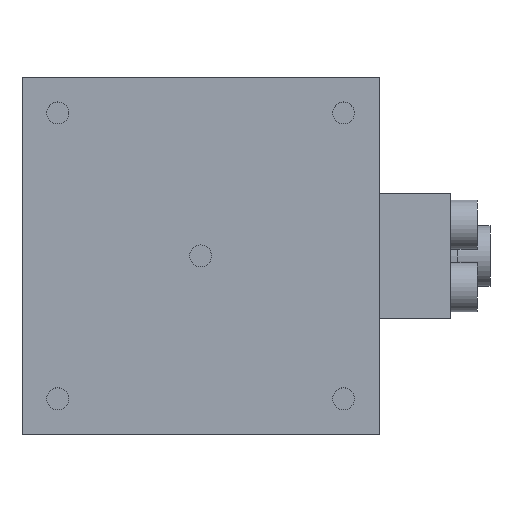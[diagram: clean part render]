
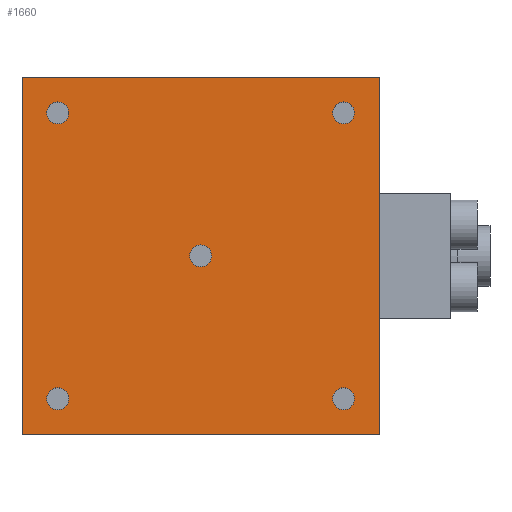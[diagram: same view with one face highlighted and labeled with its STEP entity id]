
A CAD part, top view. The second image highlights one B-rep face of the part: STEP entity #1660.
In plain terms, the highlighted planar face has unit normal (0, 0, 1).
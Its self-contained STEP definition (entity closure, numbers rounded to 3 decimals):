
#1493=CARTESIAN_POINT('Axis2P3D Location',(0.,0.,8.)) ;
#1497=CARTESIAN_POINT('Vertex',(1.23,0.,8.)) ;
#1499=CARTESIAN_POINT('Vertex',(-1.23,0.,8.)) ;
#1528=CARTESIAN_POINT('Axis2P3D Location',(0.,0.,8.)) ;
#1545=CARTESIAN_POINT('Axis2P3D Location',(0.,-20.,8.)) ;
#1550=CARTESIAN_POINT('Line Origine',(0.,20.,8.)) ;
#1554=CARTESIAN_POINT('Vertex',(-20.,20.,8.)) ;
#1556=CARTESIAN_POINT('Vertex',(20.,20.,8.)) ;
#1559=CARTESIAN_POINT('Line Origine',(-20.,0.,8.)) ;
#1563=CARTESIAN_POINT('Vertex',(-20.,-20.,8.)) ;
#1566=CARTESIAN_POINT('Line Origine',(0.,-20.,8.)) ;
#1570=CARTESIAN_POINT('Vertex',(20.,-20.,8.)) ;
#1573=CARTESIAN_POINT('Line Origine',(20.,0.,8.)) ;
#1588=CARTESIAN_POINT('Axis2P3D Location',(-16.,16.,8.)) ;
#1592=CARTESIAN_POINT('Vertex',(-17.23,16.,8.)) ;
#1594=CARTESIAN_POINT('Vertex',(-14.771,16.,8.)) ;
#1597=CARTESIAN_POINT('Axis2P3D Location',(-16.,16.,8.)) ;
#1606=CARTESIAN_POINT('Axis2P3D Location',(16.,16.,8.)) ;
#1610=CARTESIAN_POINT('Vertex',(14.771,16.,8.)) ;
#1612=CARTESIAN_POINT('Vertex',(17.23,16.,8.)) ;
#1615=CARTESIAN_POINT('Axis2P3D Location',(16.,16.,8.)) ;
#1624=CARTESIAN_POINT('Axis2P3D Location',(16.,-16.,8.)) ;
#1628=CARTESIAN_POINT('Vertex',(14.771,-16.,8.)) ;
#1630=CARTESIAN_POINT('Vertex',(17.23,-16.,8.)) ;
#1633=CARTESIAN_POINT('Axis2P3D Location',(16.,-16.,8.)) ;
#1642=CARTESIAN_POINT('Axis2P3D Location',(-16.,-16.,8.)) ;
#1646=CARTESIAN_POINT('Vertex',(-17.23,-16.,8.)) ;
#1648=CARTESIAN_POINT('Vertex',(-14.771,-16.,8.)) ;
#1651=CARTESIAN_POINT('Axis2P3D Location',(-16.,-16.,8.)) ;
#1552=VECTOR('Line Direction',#1551,1.) ;
#1561=VECTOR('Line Direction',#1560,1.) ;
#1568=VECTOR('Line Direction',#1567,1.) ;
#1575=VECTOR('Line Direction',#1574,1.) ;
#1494=DIRECTION('Axis2P3D Direction',(0.,-0.,-1.)) ;
#1529=DIRECTION('Axis2P3D Direction',(0.,-0.,-1.)) ;
#1546=DIRECTION('Axis2P3D Direction',(0.,0.,-1.)) ;
#1547=DIRECTION('Axis2P3D XDirection',(0.,1.,0.)) ;
#1551=DIRECTION('Vector Direction',(1.,0.,0.)) ;
#1560=DIRECTION('Vector Direction',(0.,1.,0.)) ;
#1567=DIRECTION('Vector Direction',(1.,0.,0.)) ;
#1574=DIRECTION('Vector Direction',(0.,1.,0.)) ;
#1589=DIRECTION('Axis2P3D Direction',(0.,0.,-1.)) ;
#1598=DIRECTION('Axis2P3D Direction',(0.,0.,-1.)) ;
#1607=DIRECTION('Axis2P3D Direction',(0.,0.,-1.)) ;
#1616=DIRECTION('Axis2P3D Direction',(0.,0.,-1.)) ;
#1625=DIRECTION('Axis2P3D Direction',(0.,0.,-1.)) ;
#1634=DIRECTION('Axis2P3D Direction',(0.,0.,-1.)) ;
#1643=DIRECTION('Axis2P3D Direction',(0.,0.,-1.)) ;
#1652=DIRECTION('Axis2P3D Direction',(0.,0.,-1.)) ;
#1495=AXIS2_PLACEMENT_3D('Circle Axis2P3D',#1493,#1494,$) ;
#1530=AXIS2_PLACEMENT_3D('Circle Axis2P3D',#1528,#1529,$) ;
#1548=AXIS2_PLACEMENT_3D('Plane Axis2P3D',#1545,#1546,#1547) ;
#1590=AXIS2_PLACEMENT_3D('Circle Axis2P3D',#1588,#1589,$) ;
#1599=AXIS2_PLACEMENT_3D('Circle Axis2P3D',#1597,#1598,$) ;
#1608=AXIS2_PLACEMENT_3D('Circle Axis2P3D',#1606,#1607,$) ;
#1617=AXIS2_PLACEMENT_3D('Circle Axis2P3D',#1615,#1616,$) ;
#1626=AXIS2_PLACEMENT_3D('Circle Axis2P3D',#1624,#1625,$) ;
#1635=AXIS2_PLACEMENT_3D('Circle Axis2P3D',#1633,#1634,$) ;
#1644=AXIS2_PLACEMENT_3D('Circle Axis2P3D',#1642,#1643,$) ;
#1653=AXIS2_PLACEMENT_3D('Circle Axis2P3D',#1651,#1652,$) ;
#1553=LINE('Line',#1550,#1552) ;
#1562=LINE('Line',#1559,#1561) ;
#1569=LINE('Line',#1566,#1568) ;
#1576=LINE('Line',#1573,#1575) ;
#1496=CIRCLE('generated circle',#1495,1.23) ;
#1531=CIRCLE('generated circle',#1530,1.23) ;
#1591=CIRCLE('generated circle',#1590,1.23) ;
#1600=CIRCLE('generated circle',#1599,1.23) ;
#1609=CIRCLE('generated circle',#1608,1.23) ;
#1618=CIRCLE('generated circle',#1617,1.23) ;
#1627=CIRCLE('generated circle',#1626,1.23) ;
#1636=CIRCLE('generated circle',#1635,1.23) ;
#1645=CIRCLE('generated circle',#1644,1.23) ;
#1654=CIRCLE('generated circle',#1653,1.23) ;
#1549=PLANE('',#1548) ;
#1587=FACE_BOUND('',#1584,.T.) ;
#1605=FACE_BOUND('',#1602,.T.) ;
#1623=FACE_BOUND('',#1620,.T.) ;
#1641=FACE_BOUND('',#1638,.T.) ;
#1659=FACE_BOUND('',#1656,.T.) ;
#1501=EDGE_CURVE('',#1498,#1500,#1496,.T.) ;
#1532=EDGE_CURVE('',#1500,#1498,#1531,.T.) ;
#1558=EDGE_CURVE('',#1555,#1557,#1553,.T.) ;
#1565=EDGE_CURVE('',#1555,#1564,#1562,.F.) ;
#1572=EDGE_CURVE('',#1564,#1571,#1569,.T.) ;
#1577=EDGE_CURVE('',#1557,#1571,#1576,.F.) ;
#1596=EDGE_CURVE('',#1593,#1595,#1591,.T.) ;
#1601=EDGE_CURVE('',#1595,#1593,#1600,.T.) ;
#1614=EDGE_CURVE('',#1611,#1613,#1609,.T.) ;
#1619=EDGE_CURVE('',#1613,#1611,#1618,.T.) ;
#1632=EDGE_CURVE('',#1629,#1631,#1627,.T.) ;
#1637=EDGE_CURVE('',#1631,#1629,#1636,.T.) ;
#1650=EDGE_CURVE('',#1647,#1649,#1645,.T.) ;
#1655=EDGE_CURVE('',#1649,#1647,#1654,.T.) ;
#1578=EDGE_LOOP('',(#1579,#1580,#1581,#1582)) ;
#1584=EDGE_LOOP('',(#1585,#1586)) ;
#1602=EDGE_LOOP('',(#1603,#1604)) ;
#1620=EDGE_LOOP('',(#1621,#1622)) ;
#1638=EDGE_LOOP('',(#1639,#1640)) ;
#1656=EDGE_LOOP('',(#1657,#1658)) ;
#1579=ORIENTED_EDGE('',*,*,#1558,.F.) ;
#1580=ORIENTED_EDGE('',*,*,#1565,.T.) ;
#1581=ORIENTED_EDGE('',*,*,#1572,.T.) ;
#1582=ORIENTED_EDGE('',*,*,#1577,.F.) ;
#1585=ORIENTED_EDGE('',*,*,#1532,.T.) ;
#1586=ORIENTED_EDGE('',*,*,#1501,.T.) ;
#1603=ORIENTED_EDGE('',*,*,#1596,.T.) ;
#1604=ORIENTED_EDGE('',*,*,#1601,.T.) ;
#1621=ORIENTED_EDGE('',*,*,#1614,.T.) ;
#1622=ORIENTED_EDGE('',*,*,#1619,.T.) ;
#1639=ORIENTED_EDGE('',*,*,#1632,.T.) ;
#1640=ORIENTED_EDGE('',*,*,#1637,.T.) ;
#1657=ORIENTED_EDGE('',*,*,#1650,.T.) ;
#1658=ORIENTED_EDGE('',*,*,#1655,.T.) ;
#1498=VERTEX_POINT('',#1497) ;
#1500=VERTEX_POINT('',#1499) ;
#1555=VERTEX_POINT('',#1554) ;
#1557=VERTEX_POINT('',#1556) ;
#1564=VERTEX_POINT('',#1563) ;
#1571=VERTEX_POINT('',#1570) ;
#1593=VERTEX_POINT('',#1592) ;
#1595=VERTEX_POINT('',#1594) ;
#1611=VERTEX_POINT('',#1610) ;
#1613=VERTEX_POINT('',#1612) ;
#1629=VERTEX_POINT('',#1628) ;
#1631=VERTEX_POINT('',#1630) ;
#1647=VERTEX_POINT('',#1646) ;
#1649=VERTEX_POINT('',#1648) ;
#1660=ADVANCED_FACE('\X2\FF8AFF9FFF70FF82\X0\ \X2\FF8EFF9EFF83FF9EFF68FF70\X0\',(#1583,#1587,#1605,#1623,#1641,#1659),#1549,.F.) ;
#1583=FACE_OUTER_BOUND('',#1578,.T.) ;
